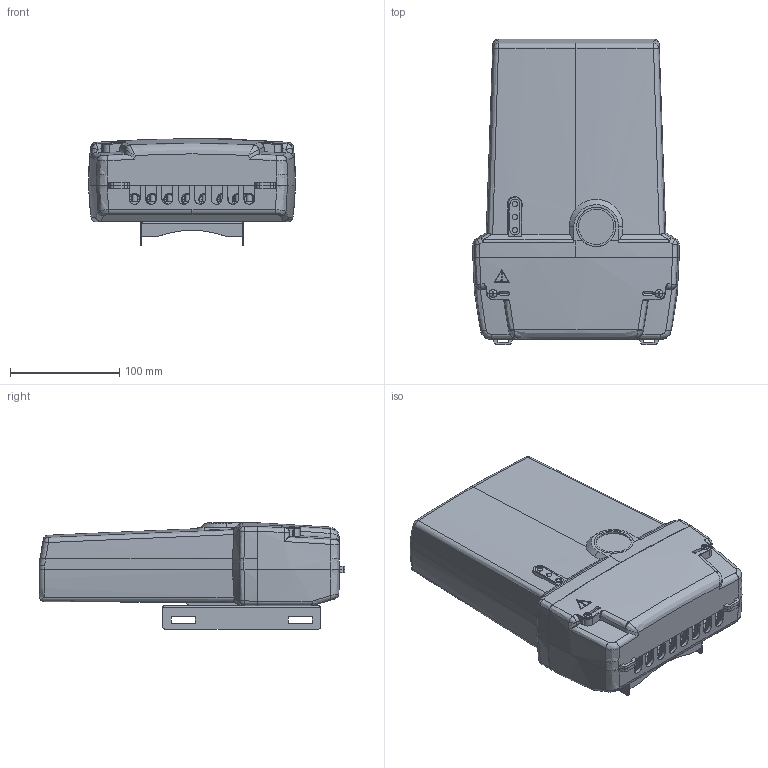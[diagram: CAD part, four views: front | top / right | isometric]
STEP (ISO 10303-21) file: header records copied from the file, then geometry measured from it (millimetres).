
FILE_DESCRIPTION (( 'STEP AP214' ), '1' );
FILE_NAME ('C36.STEP', '2025-02-12T10:10:47', ( '' ), ( '' ), 'SwSTEP 2.0', 'SolidWorks 2019', '' );
FILE_SCHEMA (( 'AUTOMOTIVE_DESIGN' ));
Length unit declared in the file: millimetre
Products named in the file (1): C36
Bounding box: 189 x 280 x 97.5 mm (x, y, z)
Volume: 726384.1 mm3; surface area: 557133.8 mm2
Topology: 96 solids, 96 shells, 5388 faces, 14475 edges, 9329 vertices
Faces by surface type: plane 3093, cylinder 1506, bspline 329, cone 251, torus 128, sphere 81
Entity records: 192952 total; most frequent: CARTESIAN_POINT 59791, ORIENTED_EDGE 28738, DIRECTION 26447, EDGE_CURVE 14369, VERTEX_POINT 9304, AXIS2_PLACEMENT_3D 9012, LINE 8423, VECTOR 8423
